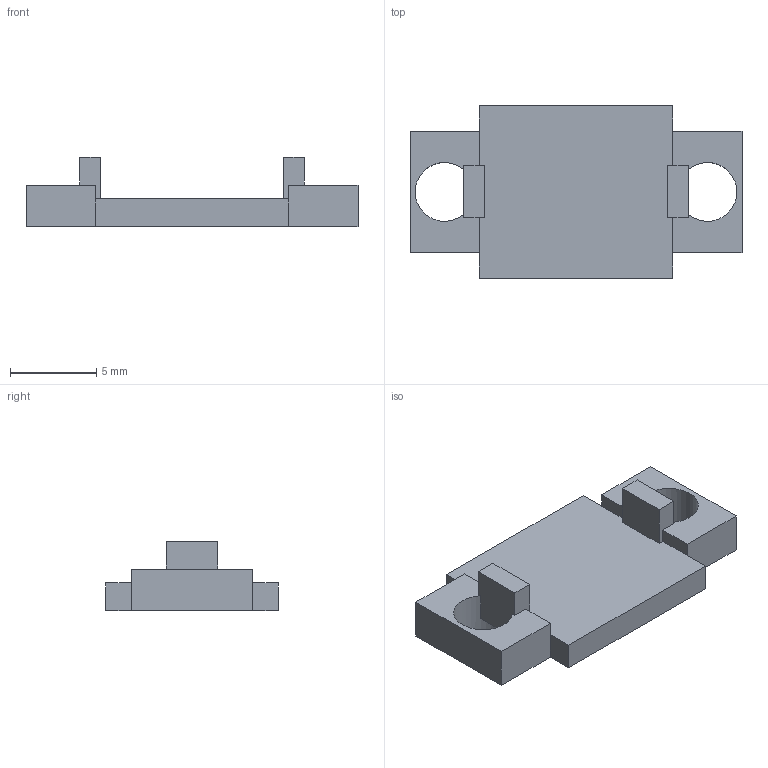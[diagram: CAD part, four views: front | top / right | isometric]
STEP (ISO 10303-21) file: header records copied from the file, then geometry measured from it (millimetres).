
FILE_DESCRIPTION(('FreeCAD Model'),'2;1');
FILE_NAME('Open CASCADE Shape Model','2026-11-20T08:25:38',('FreeCAD'),( 'FreeCAD'),'Open CASCADE STEP processor 7.8','FreeCAD','Unknown');
FILE_SCHEMA(('AUTOMOTIVE_DESIGN { 1 0 10303 214 1 1 1 1 }'));
Length unit declared in the file: millimetre
Products named in the file (1): Open CASCADE STEP translator 7.8 63
Bounding box: 19.2 x 10 x 4 mm (x, y, z)
Volume: 286.4 mm3; surface area: 510.6 mm2
Topology: 1 solids, 1 shells, 34 faces, 98 edges, 64 vertices
Faces by surface type: plane 32, cylinder 2
Full cylindrical faces by diameter (mm): 3.4 x2
Entity records: 1116 total; most frequent: CARTESIAN_POINT 197, ORIENTED_EDGE 196, DIRECTION 176, EDGE_CURVE 98, LINE 90, VECTOR 90, VERTEX_POINT 64, AXIS2_PLACEMENT_3D 43
